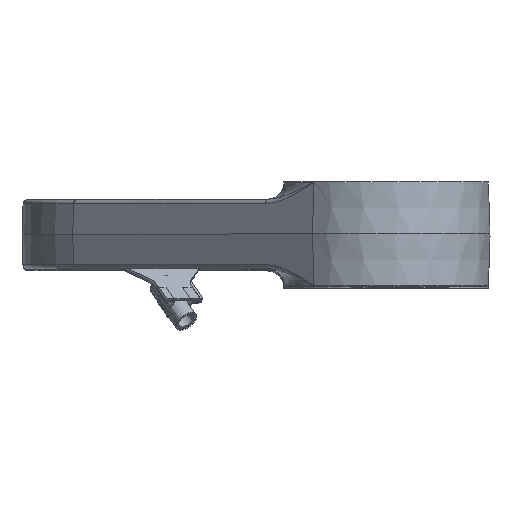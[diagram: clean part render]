
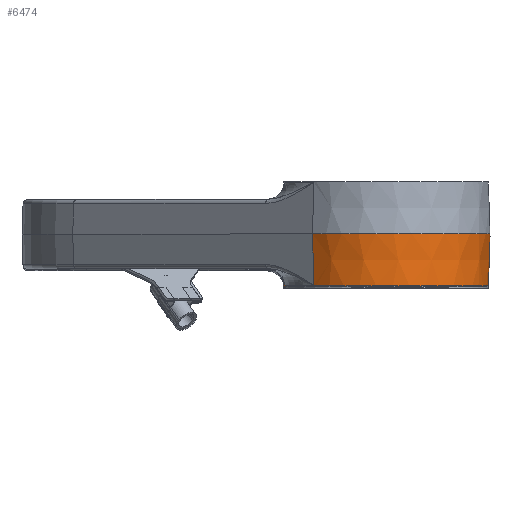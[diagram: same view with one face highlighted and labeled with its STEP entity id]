
A CAD part, top view. The second image highlights one B-rep face of the part: STEP entity #6474.
In plain terms, the highlighted conical face has half-angle 2 degrees and reference radius 120 mm.
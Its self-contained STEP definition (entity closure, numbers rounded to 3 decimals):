
#3265=AXIS2_PLACEMENT_3D('Circle Axis2P3D',#3263,#3264,$) ;
#6416=AXIS2_PLACEMENT_3D('Cone Axis2P3D',#6413,#6414,#6415) ;
#6427=AXIS2_PLACEMENT_3D('Circle Axis2P3D',#6425,#6426,$) ;
#6441=AXIS2_PLACEMENT_3D('Circle Axis2P3D',#6439,#6440,$) ;
#3210=CARTESIAN_POINT('Line Origine',(-213.974,-630.,3018.372)) ;
#3214=CARTESIAN_POINT('Vertex',(-212.926,-660.,3018.372)) ;
#3216=CARTESIAN_POINT('Vertex',(-212.951,-659.302,3018.372)) ;
#3260=CARTESIAN_POINT('Vertex',(-22.33,-640.,2924.656)) ;
#3263=CARTESIAN_POINT('Axis2P3D Location',(-95.022,-640.,3018.372)) ;
#3267=CARTESIAN_POINT('Vertex',(23.581,-640.,3018.372)) ;
#3270=CARTESIAN_POINT('Line Origine',(23.931,-630.,3018.372)) ;
#3274=CARTESIAN_POINT('Vertex',(22.883,-660.,3018.372)) ;
#6413=CARTESIAN_POINT('Axis2P3D Location',(-95.022,-600.,3018.372)) ;
#6418=CARTESIAN_POINT('Line Origine',(-22.116,-630.,2924.38)) ;
#6422=CARTESIAN_POINT('Vertex',(-21.473,-600.,2923.553)) ;
#6425=CARTESIAN_POINT('Axis2P3D Location',(-95.022,-600.,3018.372)) ;
#6429=CARTESIAN_POINT('Vertex',(-179.875,-600.,3103.224)) ;
#6432=CARTESIAN_POINT('Line Origine',(-179.134,-630.,3102.484)) ;
#6436=CARTESIAN_POINT('Vertex',(-178.41,-659.302,3101.76)) ;
#6439=CARTESIAN_POINT('Axis2P3D Location',(-95.022,-659.302,3018.372)) ;
#6445=CARTESIAN_POINT('Control Point',(-212.926,-660.,3018.372)) ;
#6446=CARTESIAN_POINT('Control Point',(-212.926,-660.,3035.398)) ;
#6447=CARTESIAN_POINT('Control Point',(-209.853,-660.,3052.424)) ;
#6448=CARTESIAN_POINT('Control Point',(-203.704,-660.,3068.71)) ;
#6449=CARTESIAN_POINT('Control Point',(-185.812,-660.,3098.327)) ;
#6450=CARTESIAN_POINT('Control Point',(-158.694,-660.,3119.82)) ;
#6451=CARTESIAN_POINT('Control Point',(-143.315,-660.,3127.978)) ;
#6452=CARTESIAN_POINT('Control Point',(-110.313,-660.,3138.379)) ;
#6453=CARTESIAN_POINT('Control Point',(-75.757,-660.,3136.586)) ;
#6454=CARTESIAN_POINT('Control Point',(-58.825,-660.,3132.545)) ;
#6455=CARTESIAN_POINT('Control Point',(-35.093,-660.,3122.041)) ;
#6456=CARTESIAN_POINT('Control Point',(-15.24,-660.,3105.811)) ;
#6457=CARTESIAN_POINT('Control Point',(-9.129,-660.,3099.817)) ;
#6458=CARTESIAN_POINT('Control Point',(5.829,-660.,3082.219)) ;
#6459=CARTESIAN_POINT('Control Point',(16.204,-660.,3061.386)) ;
#6460=CARTESIAN_POINT('Control Point',(20.657,-660.,3047.352)) ;
#6461=CARTESIAN_POINT('Control Point',(22.883,-660.,3032.862)) ;
#6462=CARTESIAN_POINT('Control Point',(22.883,-660.,3018.372)) ;
#3211=DIRECTION('Vector Direction',(-0.035,0.999,0.)) ;
#3264=DIRECTION('Axis2P3D Direction',(0.,1.,0.)) ;
#3271=DIRECTION('Vector Direction',(0.035,0.999,0.)) ;
#6414=DIRECTION('Axis2P3D Direction',(0.,1.,0.)) ;
#6415=DIRECTION('Axis2P3D XDirection',(-1.,0.,0.)) ;
#6419=DIRECTION('Vector Direction',(0.021,0.999,-0.028)) ;
#6426=DIRECTION('Axis2P3D Direction',(0.,1.,0.)) ;
#6433=DIRECTION('Vector Direction',(-0.025,0.999,0.025)) ;
#6440=DIRECTION('Axis2P3D Direction',(0.,1.,0.)) ;
#3212=VECTOR('Line Direction',#3211,1.) ;
#3272=VECTOR('Line Direction',#3271,1.) ;
#6420=VECTOR('Line Direction',#6419,1.) ;
#6434=VECTOR('Line Direction',#6433,1.) ;
#6465=ORIENTED_EDGE('',*,*,#3276,.T.) ;
#6466=ORIENTED_EDGE('',*,*,#3269,.F.) ;
#6467=ORIENTED_EDGE('',*,*,#6424,.F.) ;
#6468=ORIENTED_EDGE('',*,*,#6431,.T.) ;
#6469=ORIENTED_EDGE('',*,*,#6438,.T.) ;
#6470=ORIENTED_EDGE('',*,*,#6443,.F.) ;
#6471=ORIENTED_EDGE('',*,*,#3218,.F.) ;
#6472=ORIENTED_EDGE('',*,*,#6463,.T.) ;
#6474=ADVANCED_FACE('A2-007.1\\\X2\FF8AFF9FFF70FF82\X0\ \X2\FF8EFF9EFF83FF9EFF68FF70\X0\',(#6473),#6417,.T.) ;
#6444=B_SPLINE_CURVE_WITH_KNOTS('',5,(#6445,#6446,#6447,#6448,#6449,#6450,#6451,#6452,#6453,#6454,#6455,#6456,#6457,#6458,#6459,#6460,#6461,#6462),.UNSPECIFIED.,.F.,.U.,(6,3,3,3,3,6),(0.,121.467,242.934,364.401,425.135,528.51),.UNSPECIFIED.) ;
#3266=CIRCLE('generated circle',#3265,118.603) ;
#6428=CIRCLE('generated circle',#6427,120.) ;
#6442=CIRCLE('generated circle',#6441,117.929) ;
#6417=CONICAL_SURFACE('Cone',#6416,120.,0.035) ;
#3218=EDGE_CURVE('',#3215,#3217,#3213,.T.) ;
#3269=EDGE_CURVE('',#3261,#3268,#3266,.F.) ;
#3276=EDGE_CURVE('',#3275,#3268,#3273,.T.) ;
#6424=EDGE_CURVE('',#6423,#3261,#6421,.F.) ;
#6431=EDGE_CURVE('',#6423,#6430,#6428,.F.) ;
#6438=EDGE_CURVE('',#6430,#6437,#6435,.F.) ;
#6443=EDGE_CURVE('',#3217,#6437,#6442,.T.) ;
#6463=EDGE_CURVE('',#3215,#3275,#6444,.T.) ;
#6464=EDGE_LOOP('',(#6465,#6466,#6467,#6468,#6469,#6470,#6471,#6472)) ;
#6473=FACE_OUTER_BOUND('',#6464,.T.) ;
#3213=LINE('Line',#3210,#3212) ;
#3273=LINE('Line',#3270,#3272) ;
#6421=LINE('Line',#6418,#6420) ;
#6435=LINE('Line',#6432,#6434) ;
#3215=VERTEX_POINT('',#3214) ;
#3217=VERTEX_POINT('',#3216) ;
#3261=VERTEX_POINT('',#3260) ;
#3268=VERTEX_POINT('',#3267) ;
#3275=VERTEX_POINT('',#3274) ;
#6423=VERTEX_POINT('',#6422) ;
#6430=VERTEX_POINT('',#6429) ;
#6437=VERTEX_POINT('',#6436) ;
